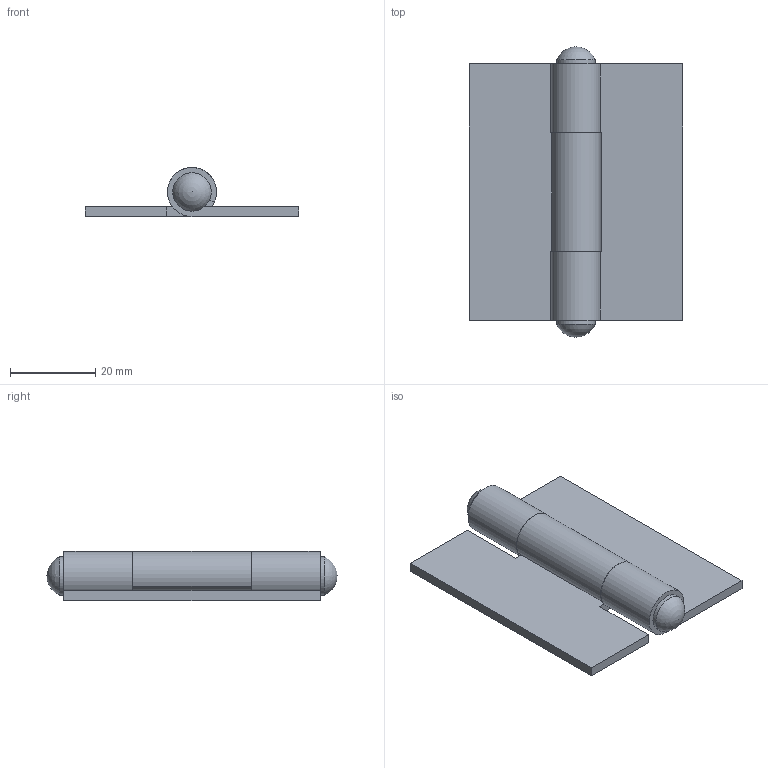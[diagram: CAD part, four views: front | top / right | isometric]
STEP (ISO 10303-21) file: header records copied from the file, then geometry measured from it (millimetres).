
FILE_DESCRIPTION(/* description */ (''),/* implementation_level */ '2;1');
FILE_NAME(/* name */ '\\NAS\db20\HTN6050-23\DR_HTN6050-23.stp',/* time_stamp */ '2017-08-23T08:55:43+09:00',/* author */ ('user'),/* organization */ (''),/* preprocessor_version */ 'ST-DEVELOPER v15.6',/* originating_system */ 'Autodesk Inventor 2015',/* authorisation */ '');
FILE_SCHEMA (('AUTOMOTIVE_DESIGN { 1 0 10303 214 3 1 1 }'));
Length unit declared in the file: millimetre
Products named in the file (3): DR_HTN6050-23-P1; DR_HTN6050-23-P2; DR_HTN6050-23
Bounding box: 50 x 68 x 11.49 mm (x, y, z)
Volume: 11916.7 mm3; surface area: 10840.1 mm2
Topology: 3 solids, 3 shells, 33 faces, 81 edges, 54 vertices
Faces by surface type: plane 22, cylinder 9, sphere 2
Full cylindrical faces by diameter (mm): 6.9 x1, 9 x2
Entity records: 983 total; most frequent: DIRECTION 166, CARTESIAN_POINT 160, ORIENTED_EDGE 144, EDGE_CURVE 72, AXIS2_PLACEMENT_3D 56, LINE 54, VECTOR 54, VERTEX_POINT 50
